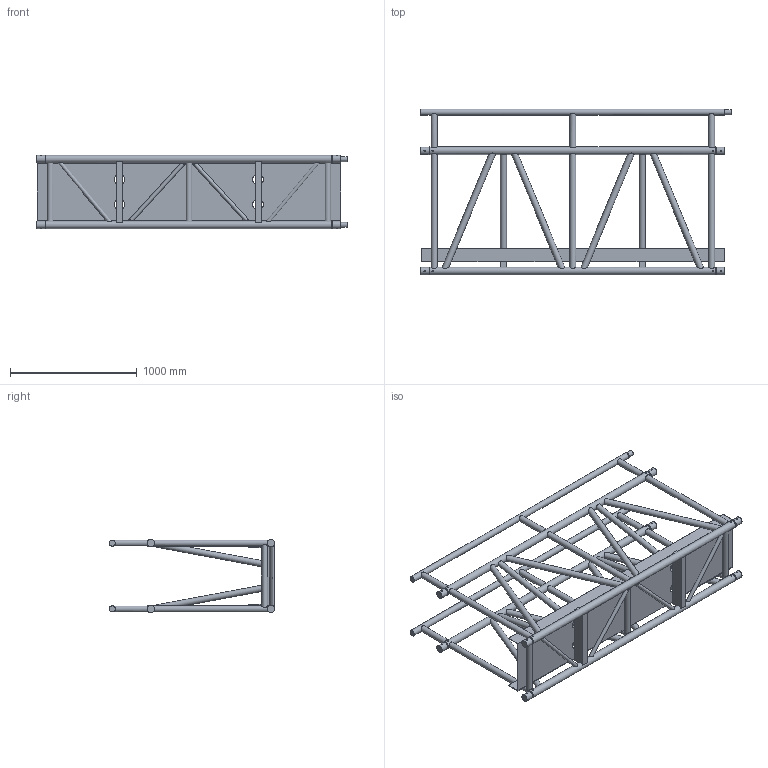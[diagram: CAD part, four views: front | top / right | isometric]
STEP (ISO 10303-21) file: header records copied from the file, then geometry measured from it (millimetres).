
FILE_DESCRIPTION(/* description */ (''),/* implementation_level */ '2;1');
FILE_NAME(/* name */ 'M:\Symbolen_NIEUW\STP\100-er truss\B100CW\B100CW-L240_111110329.stp',/* time_stamp */ '2017-12-06T13:58:04+01:00',/* author */ ('Kees'),/* organization */ (''),/* preprocessor_version */ 'ST-DEVELOPER v16.13',/* originating_system */ 'Autodesk Inventor 2018',/* authorisation */ '');
FILE_SCHEMA (('AUTOMOTIVE_DESIGN { 1 0 10303 214 3 1 1 }'));
Length unit declared in the file: millimetre
Products named in the file (1): 260006192
Bounding box: 2450 x 1309.15 x 580 mm (x, y, z)
Volume: 86044667.4 mm3; surface area: 9087102.7 mm2
Topology: 3 solids, 3 shells, 330 faces, 938 edges, 598 vertices
Faces by surface type: plane 195, cylinder 95, cone 40
Full cylindrical faces by diameter (mm): 10 x8, 30 x4, 40 x2, 48.3 x29, 58.8 x8, 60 x4
Entity records: 13433 total; most frequent: CARTESIAN_POINT 5265, DIRECTION 1570, ORIENTED_EDGE 1532, EDGE_CURVE 766, AXIS2_PLACEMENT_3D 629, VERTEX_POINT 524, EDGE_LOOP 504, STYLED_ITEM 333
